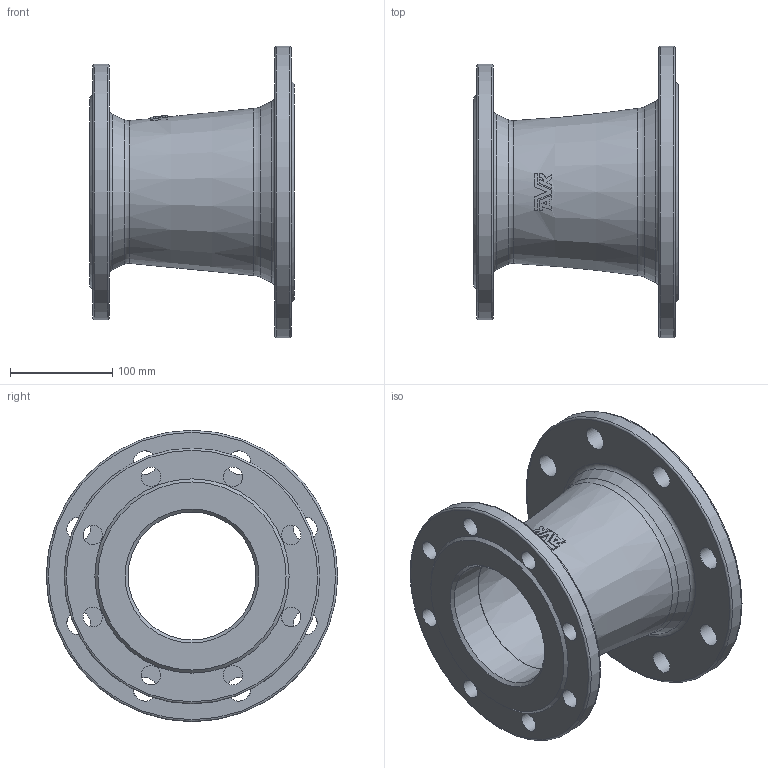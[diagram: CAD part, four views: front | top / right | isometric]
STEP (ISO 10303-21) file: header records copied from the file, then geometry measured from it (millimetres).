
FILE_DESCRIPTION (( 'STEP AP203' ), '1' );
FILE_NAME ('O_712_2210_DN150_DN125_1X_REV01.step', '2024-08-07T11:35:24', ( '' ), ( '' ), 'SwSTEP 2.0', 'SolidWorks 2022', '' );
FILE_SCHEMA (( 'CONFIG_CONTROL_DESIGN' ));
Length unit declared in the file: millimetre
Products named in the file (1): O_712_2210_DN150_DN125_1X_REV01
Bounding box: 200 x 285 x 285 mm (x, y, z)
Volume: 1918739.5 mm3; surface area: 347562.4 mm2
Topology: 1 solids, 1 shells, 85 faces, 237 edges, 154 vertices
Faces by surface type: plane 41, cylinder 22, cone 12, torus 10
Full cylindrical faces by diameter (mm): 19 x8, 23 x8, 125 x1, 150 x1, 250 x1, 285 x1
Entity records: 2580 total; most frequent: CARTESIAN_POINT 571, DIRECTION 407, ORIENTED_EDGE 356, AXIS2_PLACEMENT_3D 185, EDGE_CURVE 178, EDGE_LOOP 157, VERTEX_POINT 133, FACE_OUTER_BOUND 115
